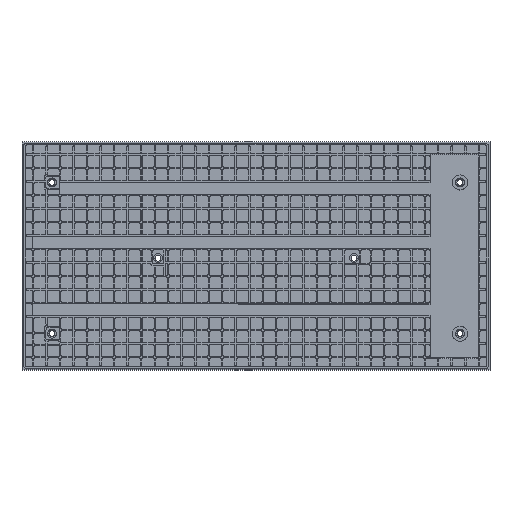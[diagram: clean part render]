
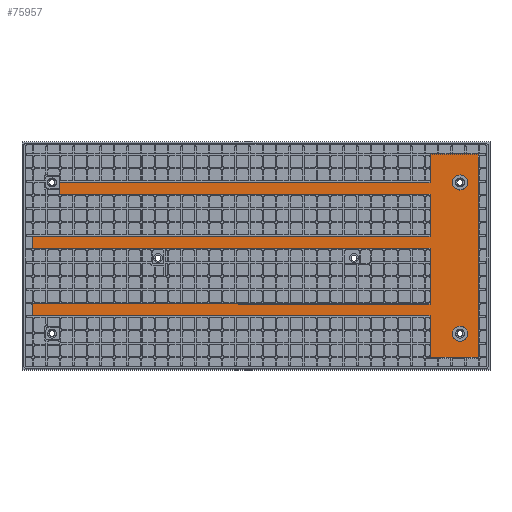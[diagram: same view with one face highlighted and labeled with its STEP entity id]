
A CAD part, top view. The second image highlights one B-rep face of the part: STEP entity #75957.
In plain terms, the highlighted planar face has unit normal (0.011, 0, 1).
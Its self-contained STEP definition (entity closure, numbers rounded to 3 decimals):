
#48=ELLIPSE('',#83605,0.625,0.625);
#49=ELLIPSE('',#83608,0.625,0.625);
#414=FACE_BOUND('',#14635,.T.);
#415=FACE_BOUND('',#14636,.T.);
#2576=PLANE('',#83609);
#10196=FACE_OUTER_BOUND('',#14634,.T.);
#14634=EDGE_LOOP('',(#69648,#69649,#69650,#69651,#69652,#69653,#69654,#69655,
#69656,#69657,#69658,#69659,#69660,#69661,#69662,#69663));
#14635=EDGE_LOOP('',(#69664));
#14636=EDGE_LOOP('',(#69665));
#16191=LINE('',#113832,#23491);
#16283=LINE('',#114096,#23583);
#16617=LINE('',#115048,#23917);
#21410=LINE('',#128983,#28710);
#21481=LINE('',#129198,#28781);
#21557=LINE('',#129412,#28857);
#21609=LINE('',#129542,#28909);
#21632=LINE('',#129593,#28932);
#21794=LINE('',#130051,#29094);
#21796=LINE('',#130054,#29096);
#21810=LINE('',#130268,#29110);
#21812=LINE('',#130271,#29112);
#21814=LINE('',#130274,#29114);
#21815=LINE('',#130276,#29115);
#21816=LINE('',#130278,#29116);
#21817=LINE('',#130280,#29117);
#23491=VECTOR('',#87576,0.394);
#23583=VECTOR('',#87838,0.394);
#23917=VECTOR('',#88838,0.394);
#28710=VECTOR('',#103395,0.394);
#28781=VECTOR('',#103610,0.394);
#28857=VECTOR('',#103832,0.394);
#28909=VECTOR('',#103976,0.394);
#28932=VECTOR('',#104037,0.394);
#29094=VECTOR('',#104521,0.394);
#29096=VECTOR('',#104525,0.394);
#29110=VECTOR('',#104603,0.394);
#29112=VECTOR('',#104607,0.394);
#29114=VECTOR('',#104611,0.394);
#29115=VECTOR('',#104614,0.394);
#29116=VECTOR('',#104617,0.394);
#29117=VECTOR('',#104620,0.394);
#31829=VERTEX_POINT('',#113829);
#31830=VERTEX_POINT('',#113831);
#31916=VERTEX_POINT('',#114093);
#31917=VERTEX_POINT('',#114095);
#32201=VERTEX_POINT('',#115045);
#32202=VERTEX_POINT('',#115047);
#35533=VERTEX_POINT('',#125982);
#36461=VERTEX_POINT('',#128980);
#36462=VERTEX_POINT('',#128982);
#36533=VERTEX_POINT('',#129195);
#36534=VERTEX_POINT('',#129197);
#36598=VERTEX_POINT('',#129409);
#36599=VERTEX_POINT('',#129411);
#36630=VERTEX_POINT('',#129539);
#36631=VERTEX_POINT('',#129541);
#36640=VERTEX_POINT('',#129592);
#36778=VERTEX_POINT('',#131194);
#36780=VERTEX_POINT('',#131200);
#39387=EDGE_CURVE('',#31829,#31830,#16191,.F.);
#39517=EDGE_CURVE('',#31916,#31917,#16283,.F.);
#39993=EDGE_CURVE('',#32201,#32202,#16617,.F.);
#46919=EDGE_CURVE('',#36461,#36462,#21410,.F.);
#47027=EDGE_CURVE('',#36533,#36534,#21481,.F.);
#47135=EDGE_CURVE('',#36598,#36599,#21557,.F.);
#47202=EDGE_CURVE('',#36630,#36631,#21609,.F.);
#47229=EDGE_CURVE('',#36631,#36640,#21632,.F.);
#47454=EDGE_CURVE('',#35533,#36461,#21794,.T.);
#47456=EDGE_CURVE('',#36640,#35533,#21796,.T.);
#47489=EDGE_CURVE('',#36462,#31916,#21810,.F.);
#47491=EDGE_CURVE('',#31917,#36533,#21812,.F.);
#47493=EDGE_CURVE('',#36534,#31829,#21814,.F.);
#47494=EDGE_CURVE('',#31830,#36598,#21815,.F.);
#47495=EDGE_CURVE('',#36599,#32201,#21816,.F.);
#47496=EDGE_CURVE('',#32202,#36630,#21817,.F.);
#47809=EDGE_CURVE('',#36778,#36778,#48,.F.);
#47812=EDGE_CURVE('',#36780,#36780,#49,.F.);
#69648=ORIENTED_EDGE('',*,*,#47454,.F.);
#69649=ORIENTED_EDGE('',*,*,#47456,.F.);
#69650=ORIENTED_EDGE('',*,*,#47229,.F.);
#69651=ORIENTED_EDGE('',*,*,#47202,.F.);
#69652=ORIENTED_EDGE('',*,*,#47496,.F.);
#69653=ORIENTED_EDGE('',*,*,#39993,.F.);
#69654=ORIENTED_EDGE('',*,*,#47495,.F.);
#69655=ORIENTED_EDGE('',*,*,#47135,.F.);
#69656=ORIENTED_EDGE('',*,*,#47494,.F.);
#69657=ORIENTED_EDGE('',*,*,#39387,.F.);
#69658=ORIENTED_EDGE('',*,*,#47493,.F.);
#69659=ORIENTED_EDGE('',*,*,#47027,.F.);
#69660=ORIENTED_EDGE('',*,*,#47491,.F.);
#69661=ORIENTED_EDGE('',*,*,#39517,.F.);
#69662=ORIENTED_EDGE('',*,*,#47489,.F.);
#69663=ORIENTED_EDGE('',*,*,#46919,.F.);
#69664=ORIENTED_EDGE('',*,*,#47812,.F.);
#69665=ORIENTED_EDGE('',*,*,#47809,.F.);
#75957=ADVANCED_FACE('',(#10196,#414,#415),#2576,.T.);
#83605=AXIS2_PLACEMENT_3D('',#131196,#106122,#106123);
#83608=AXIS2_PLACEMENT_3D('',#131202,#106129,#106130);
#83609=AXIS2_PLACEMENT_3D('',#131203,#106131,#106132);
#87576=DIRECTION('',(0.,-1.,0.));
#87838=DIRECTION('',(0.,-1.,0.));
#88838=DIRECTION('',(0.,-1.,0.));
#103395=DIRECTION('',(0.,-1.,0.));
#103610=DIRECTION('',(0.,-1.,0.));
#103832=DIRECTION('',(0.,-1.,0.));
#103976=DIRECTION('',(0.,-1.,0.));
#104037=DIRECTION('',(-1.,0.,0.011));
#104521=DIRECTION('',(-1.,0.,0.011));
#104525=DIRECTION('',(0.,-1.,0.));
#104603=DIRECTION('',(1.,0.,-0.011));
#104607=DIRECTION('',(-1.,0.,0.011));
#104611=DIRECTION('',(1.,0.,-0.011));
#104614=DIRECTION('',(-1.,0.,0.011));
#104617=DIRECTION('',(1.,0.,-0.011));
#104620=DIRECTION('',(-1.,0.,0.011));
#106122=DIRECTION('center_axis',(-0.011,0.,-1.));
#106123=DIRECTION('ref_axis',(-1.,0.,0.011));
#106129=DIRECTION('center_axis',(-0.011,0.,-1.));
#106130=DIRECTION('ref_axis',(-1.,0.,0.011));
#106131=DIRECTION('center_axis',(0.011,0.,1.));
#106132=DIRECTION('ref_axis',(-1.,0.,0.011));
#113829=CARTESIAN_POINT('',(0.875,-8.875,0.525));
#113831=CARTESIAN_POINT('',(0.875,-7.875,0.525));
#113832=CARTESIAN_POINT('',(0.875,-9.188,0.525));
#114093=CARTESIAN_POINT('',(0.875,-14.5,0.525));
#114095=CARTESIAN_POINT('',(0.875,-13.5,0.525));
#114096=CARTESIAN_POINT('',(0.875,-12.,0.525));
#115045=CARTESIAN_POINT('',(3.125,-4.375,0.501));
#115047=CARTESIAN_POINT('',(3.125,-3.375,0.501));
#115048=CARTESIAN_POINT('',(3.125,-6.438,0.501));
#125982=CARTESIAN_POINT('',(38.,-17.938,0.125));
#128980=CARTESIAN_POINT('',(34.,-17.938,0.168));
#128982=CARTESIAN_POINT('',(34.,-14.5,0.168));
#128983=CARTESIAN_POINT('',(34.,-13.75,0.168));
#129195=CARTESIAN_POINT('',(34.,-13.5,0.168));
#129197=CARTESIAN_POINT('',(34.,-8.875,0.168));
#129198=CARTESIAN_POINT('',(34.,-13.75,0.168));
#129409=CARTESIAN_POINT('',(34.,-7.875,0.168));
#129411=CARTESIAN_POINT('',(34.,-4.375,0.168));
#129412=CARTESIAN_POINT('',(34.,-13.75,0.168));
#129539=CARTESIAN_POINT('',(34.,-3.375,0.168));
#129541=CARTESIAN_POINT('',(34.,-1.,0.168));
#129542=CARTESIAN_POINT('',(34.,-13.75,0.168));
#129592=CARTESIAN_POINT('',(38.,-1.,0.125));
#129593=CARTESIAN_POINT('',(34.998,-1.,0.157));
#130051=CARTESIAN_POINT('',(36.997,-17.938,0.136));
#130054=CARTESIAN_POINT('',(38.,-1.,0.125));
#130268=CARTESIAN_POINT('',(34.998,-14.5,0.157));
#130271=CARTESIAN_POINT('',(18.437,-13.5,0.336));
#130274=CARTESIAN_POINT('',(34.998,-8.875,0.157));
#130276=CARTESIAN_POINT('',(18.437,-7.875,0.336));
#130278=CARTESIAN_POINT('',(34.998,-4.375,0.157));
#130280=CARTESIAN_POINT('',(19.562,-3.375,0.324));
#131194=CARTESIAN_POINT('',(37.125,-15.974,0.134));
#131196=CARTESIAN_POINT('Origin',(36.5,-15.974,0.141));
#131200=CARTESIAN_POINT('',(37.125,-3.375,0.134));
#131202=CARTESIAN_POINT('Origin',(36.5,-3.375,0.141));
#131203=CARTESIAN_POINT('Origin',(36.,-9.5,0.147));
